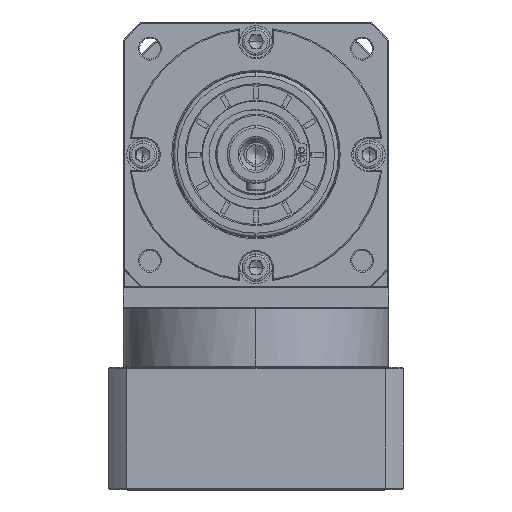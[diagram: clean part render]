
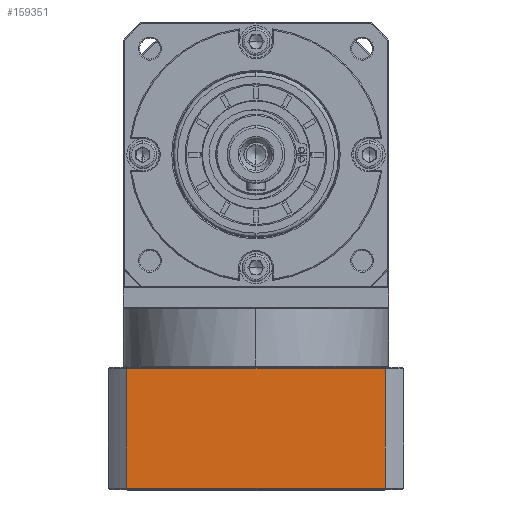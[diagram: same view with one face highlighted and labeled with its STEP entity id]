
A CAD part, top view. The second image highlights one B-rep face of the part: STEP entity #159351.
In plain terms, the highlighted planar face has unit normal (0, 0, 1).
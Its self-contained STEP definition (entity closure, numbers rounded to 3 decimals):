
#4184 = DIRECTION ( 'NONE',  ( -1., 0., 0. ) ) ;
#16255 = VERTEX_POINT ( 'NONE', #65581 ) ;
#16942 = PLANE ( 'NONE',  #55450 ) ;
#25985 = ORIENTED_EDGE ( 'NONE', *, *, #172057, .F. ) ;
#30108 = CARTESIAN_POINT ( 'NONE',  ( -265.105, -195.785, 58.391 ) ) ;
#33571 = LINE ( 'NONE', #136378, #104781 ) ;
#49567 = VERTEX_POINT ( 'NONE', #30108 ) ;
#55450 = AXIS2_PLACEMENT_3D ( 'NONE', #70906, #164619, #84367 ) ;
#60446 = VECTOR ( 'NONE', #4184, 1000. ) ;
#63180 = FACE_OUTER_BOUND ( 'NONE', #108810, .T. ) ;
#63760 = DIRECTION ( 'NONE',  ( 0., -1., 0. ) ) ;
#65581 = CARTESIAN_POINT ( 'NONE',  ( -153.23, -143.785, 58.391 ) ) ;
#68078 = DIRECTION ( 'NONE',  ( 1., 0., 0. ) ) ;
#70906 = CARTESIAN_POINT ( 'NONE',  ( -273.167, -196.285, 58.391 ) ) ;
#83130 = DIRECTION ( 'NONE',  ( 0., 1., 0. ) ) ;
#84367 = DIRECTION ( 'NONE',  ( -1., 0., 0. ) ) ;
#91890 = EDGE_CURVE ( 'NONE', #16255, #137203, #170508, .T. ) ;
#97182 = EDGE_CURVE ( 'NONE', #137203, #49567, #135858, .T. ) ;
#99220 = VECTOR ( 'NONE', #63760, 1000. ) ;
#102663 = EDGE_CURVE ( 'NONE', #120273, #16255, #107570, .T. ) ;
#104781 = VECTOR ( 'NONE', #83130, 1000. ) ;
#107570 = LINE ( 'NONE', #134803, #143213 ) ;
#108810 = EDGE_LOOP ( 'NONE', ( #113688, #133053, #25985, #130293 ) ) ;
#113688 = ORIENTED_EDGE ( 'NONE', *, *, #91890, .F. ) ;
#120273 = VERTEX_POINT ( 'NONE', #170001 ) ;
#130293 = ORIENTED_EDGE ( 'NONE', *, *, #97182, .F. ) ;
#133053 = ORIENTED_EDGE ( 'NONE', *, *, #102663, .F. ) ;
#134803 = CARTESIAN_POINT ( 'NONE',  ( -273.167, -143.785, 58.391 ) ) ;
#135858 = LINE ( 'NONE', #164785, #60446 ) ;
#136378 = CARTESIAN_POINT ( 'NONE',  ( -265.105, -196.285, 58.391 ) ) ;
#137203 = VERTEX_POINT ( 'NONE', #151376 ) ;
#143213 = VECTOR ( 'NONE', #68078, 1000. ) ;
#144031 = CARTESIAN_POINT ( 'NONE',  ( -153.23, 99.535, 58.391 ) ) ;
#151376 = CARTESIAN_POINT ( 'NONE',  ( -153.23, -195.785, 58.391 ) ) ;
#159351 = ADVANCED_FACE ( 'NONE', ( #63180 ), #16942, .F. ) ;
#164619 = DIRECTION ( 'NONE',  ( 0., 0., -1. ) ) ;
#164785 = CARTESIAN_POINT ( 'NONE',  ( -273.167, -195.785, 58.391 ) ) ;
#170001 = CARTESIAN_POINT ( 'NONE',  ( -265.105, -143.785, 58.391 ) ) ;
#170508 = LINE ( 'NONE', #144031, #99220 ) ;
#172057 = EDGE_CURVE ( 'NONE', #49567, #120273, #33571, .T. ) ;
